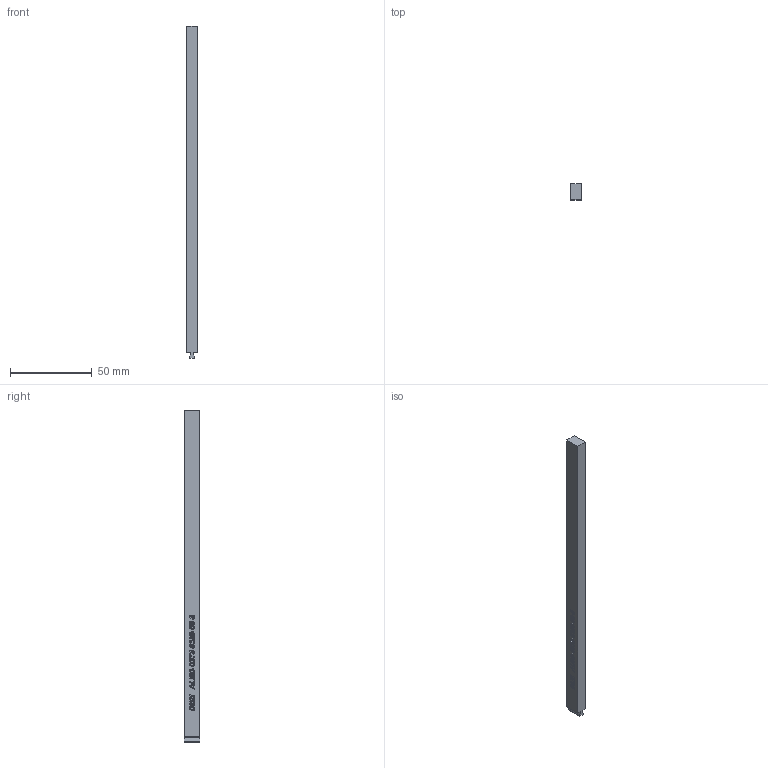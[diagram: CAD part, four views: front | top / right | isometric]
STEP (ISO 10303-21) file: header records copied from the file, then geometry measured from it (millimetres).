
FILE_DESCRIPTION (( 'STEP AP203' ), '1' );
FILE_NAME ('ALBD-0375-0250-08-5.STEP', '2021-01-11T20:20:23', ( '' ), ( '' ), 'SwSTEP 2.0', 'SolidWorks 2020', '' );
FILE_SCHEMA (( 'CONFIG_CONTROL_DESIGN' ));
Length unit declared in the file: inch
Products named in the file (1): ALBD-0375-0250-08-5
Bounding box: 6.35 x 9.53 x 203.2 mm (x, y, z)
Volume: 12162.3 mm3; surface area: 6595.4 mm2
Topology: 1 solids, 1 shells, 202 faces, 501 edges, 334 vertices
Faces by surface type: plane 145, bspline 57
Entity records: 8142 total; most frequent: CARTESIAN_POINT 3635, ORIENTED_EDGE 1002, DIRECTION 679, EDGE_CURVE 501, LINE 387, VECTOR 387, VERTEX_POINT 334, EDGE_LOOP 235
